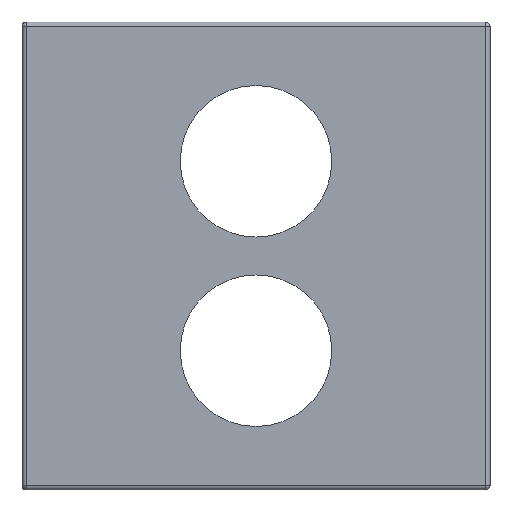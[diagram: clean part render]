
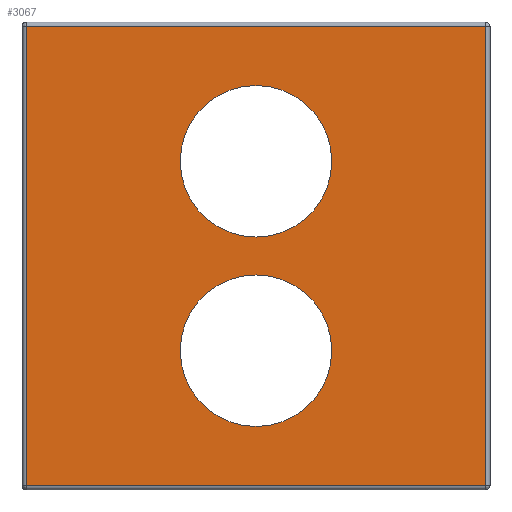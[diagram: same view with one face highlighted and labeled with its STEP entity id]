
A CAD part, left-side view. The second image highlights one B-rep face of the part: STEP entity #3067.
In plain terms, the highlighted planar face has unit normal (-1, 0, 0).
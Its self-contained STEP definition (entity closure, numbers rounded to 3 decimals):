
#40 = LINE ( 'NONE', #240, #3112 ) ;
#211 = CARTESIAN_POINT ( 'NONE',  ( 2199.177, -670.794, -14.75 ) ) ;
#218 = AXIS2_PLACEMENT_3D ( 'NONE', #468, #851, #4953 ) ;
#240 = CARTESIAN_POINT ( 'NONE',  ( 2199.177, -660.494, -21. ) ) ;
#319 = DIRECTION ( 'NONE',  ( 0., 0., -1. ) ) ;
#468 = CARTESIAN_POINT ( 'NONE',  ( 2199.177, -681.294, -21. ) ) ;
#727 = VECTOR ( 'NONE', #2548, 1000. ) ;
#775 = DIRECTION ( 'NONE',  ( -1., 0., 0. ) ) ;
#846 = CARTESIAN_POINT ( 'NONE',  ( 2199.177, -681.094, -0.2 ) ) ;
#851 = DIRECTION ( 'NONE',  ( 1., 0., 0. ) ) ;
#864 = FACE_BOUND ( 'NONE', #2798, .T. ) ;
#892 = VERTEX_POINT ( 'NONE', #1733 ) ;
#922 = LINE ( 'NONE', #5295, #2771 ) ;
#936 = EDGE_CURVE ( 'NONE', #892, #3461, #40, .T. ) ;
#966 = EDGE_CURVE ( 'NONE', #3461, #1612, #4046, .T. ) ;
#1030 = DIRECTION ( 'NONE',  ( 0., 0., 1. ) ) ;
#1049 = EDGE_LOOP ( 'NONE', ( #2942, #1236 ) ) ;
#1236 = ORIENTED_EDGE ( 'NONE', *, *, #5276, .F. ) ;
#1376 = LINE ( 'NONE', #2113, #727 ) ;
#1545 = DIRECTION ( 'NONE',  ( -1., 0., 0. ) ) ;
#1612 = VERTEX_POINT ( 'NONE', #846 ) ;
#1706 = VERTEX_POINT ( 'NONE', #4874 ) ;
#1716 = CARTESIAN_POINT ( 'NONE',  ( 2199.177, -670.794, -11.35 ) ) ;
#1733 = CARTESIAN_POINT ( 'NONE',  ( 2199.177, -660.494, -20.8 ) ) ;
#1764 = CARTESIAN_POINT ( 'NONE',  ( 2199.177, -681.094, -20.8 ) ) ;
#2066 = ORIENTED_EDGE ( 'NONE', *, *, #966, .F. ) ;
#2113 = CARTESIAN_POINT ( 'NONE',  ( 2199.177, -681.294, -20.8 ) ) ;
#2143 = CIRCLE ( 'NONE', #2397, 3.4 ) ;
#2174 = DIRECTION ( 'NONE',  ( 0., 0., 1. ) ) ;
#2274 = ORIENTED_EDGE ( 'NONE', *, *, #3770, .F. ) ;
#2397 = AXIS2_PLACEMENT_3D ( 'NONE', #3763, #3369, #2174 ) ;
#2433 = VERTEX_POINT ( 'NONE', #1716 ) ;
#2548 = DIRECTION ( 'NONE',  ( 0., 1., 0. ) ) ;
#2549 = ORIENTED_EDGE ( 'NONE', *, *, #3065, .F. ) ;
#2576 = DIRECTION ( 'NONE',  ( -1., 0., 0. ) ) ;
#2655 = VERTEX_POINT ( 'NONE', #4255 ) ;
#2674 = DIRECTION ( 'NONE',  ( 0., -1., 0. ) ) ;
#2726 = VERTEX_POINT ( 'NONE', #3875 ) ;
#2771 = VECTOR ( 'NONE', #319, 1000. ) ;
#2798 = EDGE_LOOP ( 'NONE', ( #2274, #2936 ) ) ;
#2853 = VECTOR ( 'NONE', #2674, 1000. ) ;
#2936 = ORIENTED_EDGE ( 'NONE', *, *, #4010, .F. ) ;
#2942 = ORIENTED_EDGE ( 'NONE', *, *, #5226, .F. ) ;
#3065 = EDGE_CURVE ( 'NONE', #4530, #892, #1376, .T. ) ;
#3067 = ADVANCED_FACE ( 'NONE', ( #4896, #864, #4507 ), #4075, .F. ) ;
#3112 = VECTOR ( 'NONE', #1030, 1000. ) ;
#3222 = CARTESIAN_POINT ( 'NONE',  ( 2199.177, -670.794, -6.25 ) ) ;
#3277 = ORIENTED_EDGE ( 'NONE', *, *, #3329, .F. ) ;
#3329 = EDGE_CURVE ( 'NONE', #1612, #4530, #922, .T. ) ;
#3369 = DIRECTION ( 'NONE',  ( -1., 0., 0. ) ) ;
#3461 = VERTEX_POINT ( 'NONE', #3628 ) ;
#3510 = CARTESIAN_POINT ( 'NONE',  ( 2199.177, -681.294, -0.2 ) ) ;
#3545 = DIRECTION ( 'NONE',  ( 0., 0., -1. ) ) ;
#3628 = CARTESIAN_POINT ( 'NONE',  ( 2199.177, -660.494, -0.2 ) ) ;
#3763 = CARTESIAN_POINT ( 'NONE',  ( 2199.177, -670.794, -6.25 ) ) ;
#3770 = EDGE_CURVE ( 'NONE', #1706, #2726, #2143, .T. ) ;
#3875 = CARTESIAN_POINT ( 'NONE',  ( 2199.177, -670.794, -9.65 ) ) ;
#3893 = CIRCLE ( 'NONE', #4312, 3.4 ) ;
#4010 = EDGE_CURVE ( 'NONE', #2726, #1706, #3893, .T. ) ;
#4046 = LINE ( 'NONE', #3510, #2853 ) ;
#4072 = CIRCLE ( 'NONE', #4210, 3.4 ) ;
#4075 = PLANE ( 'NONE',  #218 ) ;
#4081 = ORIENTED_EDGE ( 'NONE', *, *, #936, .F. ) ;
#4197 = EDGE_LOOP ( 'NONE', ( #2066, #4081, #2549, #3277 ) ) ;
#4210 = AXIS2_PLACEMENT_3D ( 'NONE', #211, #2576, #4818 ) ;
#4255 = CARTESIAN_POINT ( 'NONE',  ( 2199.177, -670.794, -18.15 ) ) ;
#4312 = AXIS2_PLACEMENT_3D ( 'NONE', #3222, #775, #4805 ) ;
#4507 = FACE_OUTER_BOUND ( 'NONE', #4197, .T. ) ;
#4530 = VERTEX_POINT ( 'NONE', #1764 ) ;
#4552 = CIRCLE ( 'NONE', #4887, 3.4 ) ;
#4760 = CARTESIAN_POINT ( 'NONE',  ( 2199.177, -670.794, -14.75 ) ) ;
#4805 = DIRECTION ( 'NONE',  ( 0., 0., 1. ) ) ;
#4818 = DIRECTION ( 'NONE',  ( 0., 0., -1. ) ) ;
#4874 = CARTESIAN_POINT ( 'NONE',  ( 2199.177, -670.794, -2.85 ) ) ;
#4887 = AXIS2_PLACEMENT_3D ( 'NONE', #4760, #1545, #3545 ) ;
#4896 = FACE_BOUND ( 'NONE', #1049, .T. ) ;
#4953 = DIRECTION ( 'NONE',  ( 0., 0., -1. ) ) ;
#5226 = EDGE_CURVE ( 'NONE', #2433, #2655, #4072, .T. ) ;
#5276 = EDGE_CURVE ( 'NONE', #2655, #2433, #4552, .T. ) ;
#5295 = CARTESIAN_POINT ( 'NONE',  ( 2199.177, -681.094, -21. ) ) ;
